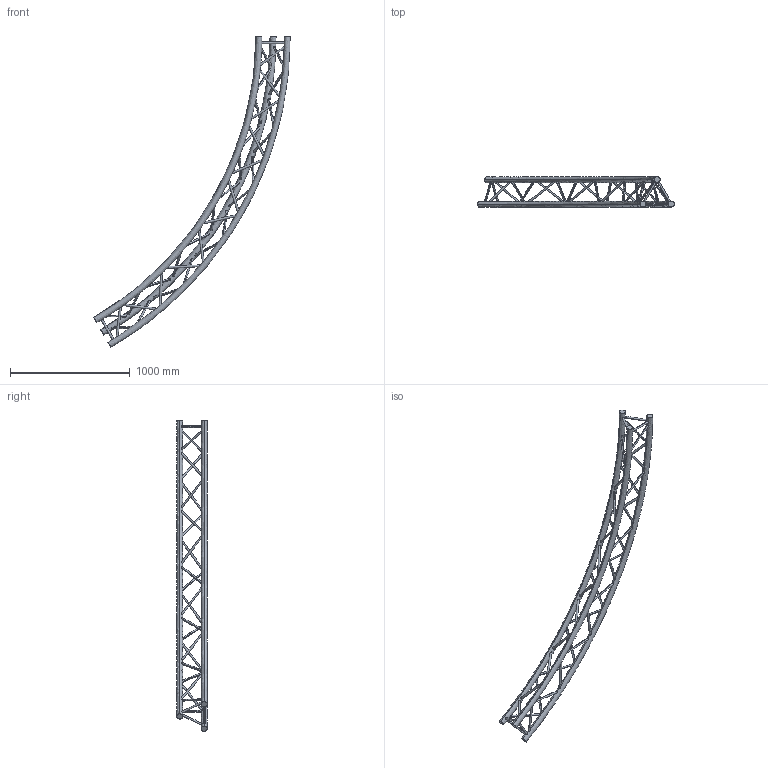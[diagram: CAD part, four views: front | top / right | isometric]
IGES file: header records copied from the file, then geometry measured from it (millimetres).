
Start section: SolidWorks IGES file using analytic representation for surfaces
Global section: file name: K:\BIBLIO\asd_biblio\SX290\Cercles\SXC29600PH\SXC29700PH.IGS; native system: SolidWorks 2009; preprocessor: SolidWorks 2009; author: des3; date: 091021.102121; units: millimetre
Bounding box: 1643.5 x 255.25 x 2598.08 mm (x, y, z)
Surface area: 1938501.3 mm2 (no closed solid volume)
Topology: 0 solids, 0 shells, 96 faces, 6893 edges, 6893 vertices
Faces by surface type: revolution 84, bspline 12
